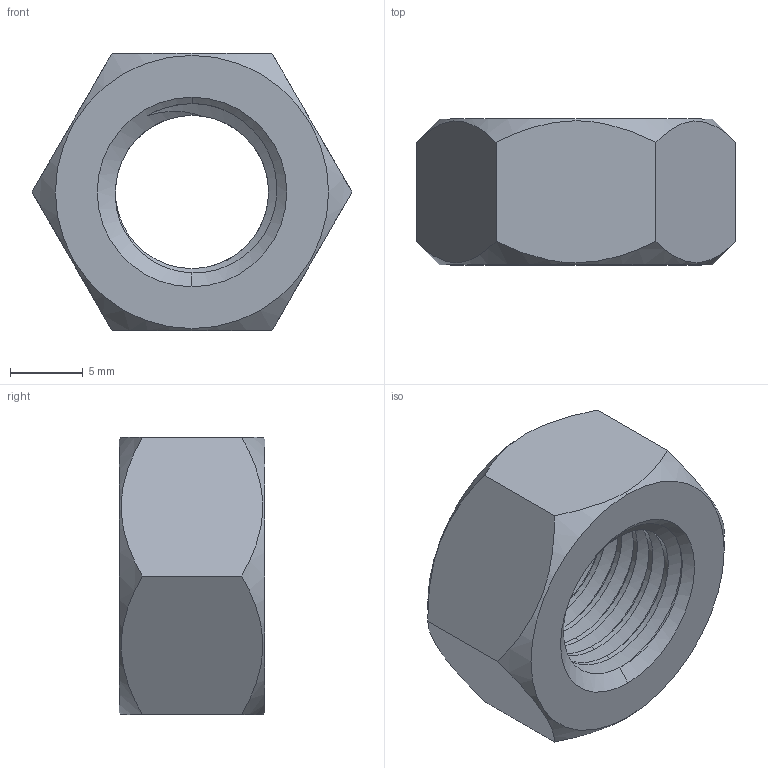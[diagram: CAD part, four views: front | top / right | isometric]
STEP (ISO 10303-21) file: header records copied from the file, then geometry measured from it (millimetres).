
FILE_DESCRIPTION (( 'STEP AP203' ), '1' );
FILE_NAME ('TANRM-304-M12x1.5.STEP', '2026-08-21T14:39:42', ( '' ), ( '' ), 'SwSTEP 2.0', 'SolidWorks 2020', '' );
FILE_SCHEMA (( 'CONFIG_CONTROL_DESIGN' ));
Length unit declared in the file: millimetre
Products named in the file (1): TANRM-304-M12x1.5
Bounding box: 21.94 x 10 x 19 mm (x, y, z)
Volume: 2078.5 mm3; surface area: 1547.8 mm2
Topology: 1 solids, 1 shells, 32 faces, 89 edges, 59 vertices
Faces by surface type: cylinder 12, cone 9, plane 8, bspline 3
Entity records: 2780 total; most frequent: CARTESIAN_POINT 2005, ORIENTED_EDGE 178, DIRECTION 108, EDGE_CURVE 89, VERTEX_POINT 59, AXIS2_PLACEMENT_3D 41, EDGE_LOOP 34, FACE_OUTER_BOUND 32
